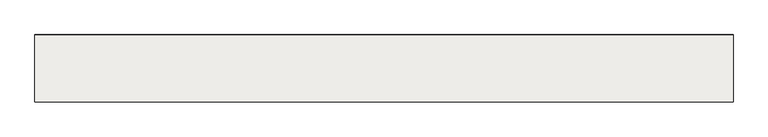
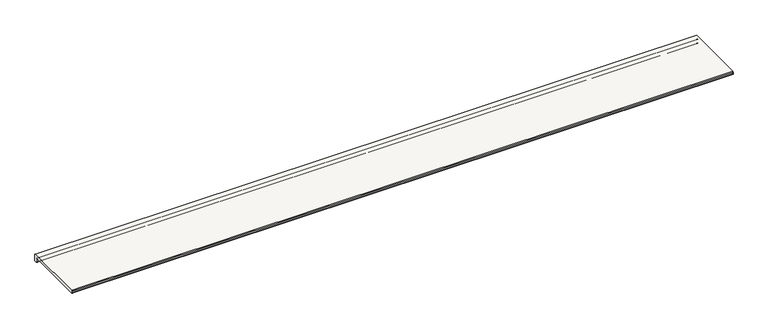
"""IFC4 building model written with IfcOpenShell, lengths in millimetres: slab geometry, ROSA GRES_L62 : Pieza L62_Serena_Ocra_Anti-Slip."""

from ifc_helpers import new_model, si_unit, point, frame, frame_2d, origin, place, context, project, spatial, polyline, circle_curve, trimmed, segment, composite_curve, outline, extrude, source, transform, mapped, element, save


def slab_d76aea63(model_context):
    return source(origin(), model_context, "Body", "SweptSolid", [
        extrude(outline(composite_curve([segment(trimmed(circle_curve(frame_2d((-12.1001991, -35.1001991)), 1.8998009), [point((-12.1001991, -37.0))], [point((-14.0, -35.1001991))], False, "CARTESIAN"), True, "CONTINUOUS"), segment(polyline([(-14.0, -35.1001991), (-14.0, -16.5836242)]), True, "CONTINUOUS"), segment(trimmed(circle_curve(frame_2d((-16.6422322, -16.5836242)), 2.6422322), [point((-14.0, -16.5836242))], [point((-16.6422322, -13.9413919))], True, "CARTESIAN"), True, "CONTINUOUS"), segment(polyline([(-16.6422322, -13.9413919), (-315.5234432, -13.9413919)]), True, "CONTINUOUS"), segment(trimmed(circle_curve(frame_2d((-315.5234432, -12.4648352)), 1.4765568), [point((-315.5234432, -13.9413919))], [point((-317.0, -12.4648352))], False, "CARTESIAN"), True, "CONTINUOUS"), segment(polyline([(-317.0, -12.4648352), (-317.0, -2.5), (-315.5, 0.0), (-2.5, 0.0), (0.0, -2.5), (0.0, -34.5)]), True, "CONTINUOUS"), segment(trimmed(circle_curve(frame_2d((-2.5, -34.5)), 2.5), [point((0.0, -34.5))], [point((-2.5, -37.0))], False, "CARTESIAN"), True, "CONTINUOUS"), segment(polyline([(-2.5, -37.0), (-5.422949, -37.0)]), True, "CONTINUOUS"), segment(trimmed(circle_curve(frame_2d((-7.4142134, -37.0)), 1.9912643), [point((-5.422949, -37.0))], [point((-9.4054777, -37.0))], True, "CARTESIAN"), True, "CONTINUOUS"), segment(polyline([(-9.4054777, -37.0), (-12.1001991, -37.0)]), True, "CONTINUOUS")], self_intersect=False)), frame((0.0, 0.0, 0.0), z_axis=(1.0, 0.0, 0.0), x_axis=(0.0, 1.0, 0.0)), (0.0, 0.0, 1.0), 3281.9600849),
    ])


if __name__ == "__main__":
    model = new_model("IFC4")
    model_context = context("Model", 3, world=origin())
    ifc_project = project(units=[si_unit("LENGTHUNIT", "METRE", prefix="MILLI")], contexts=[model_context])
    site = spatial("IfcSite", under=ifc_project)
    building = spatial("IfcBuilding", under=site)
    placement = place(None, origin())
    slab_shape = slab_d76aea63(model_context)
    element("IfcSlab", 1, ObjectType="ROSA GRES_L62 : Pieza L62_Serena_Ocra_Anti-Slip", at=placement, inside=building, context=model_context, shape_type="MappedRepresentation", body=[
        mapped(slab_shape, transform((0.0, 0.0, 0.0), x_axis=(1.0, 0.0, 0.0), y_axis=(0.0, 1.0, 0.0), z_axis=(0.0, 0.0, 1.0))),
    ])
    save(model, "model.ifc")
